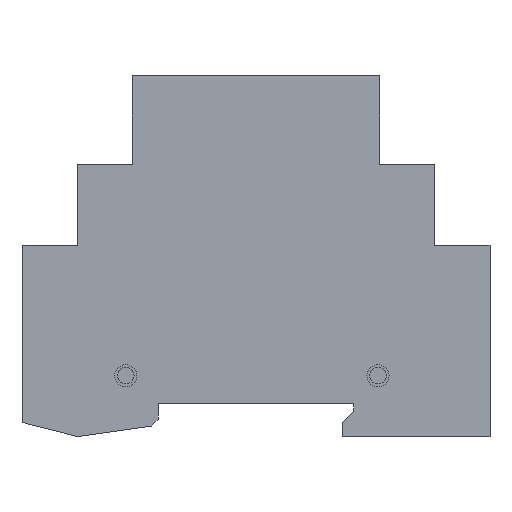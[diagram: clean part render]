
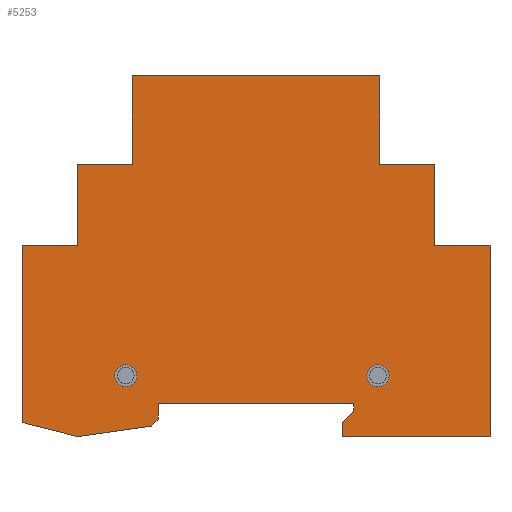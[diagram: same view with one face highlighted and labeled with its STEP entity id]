
A CAD part, left-side view. The second image highlights one B-rep face of the part: STEP entity #5253.
In plain terms, the highlighted planar face has unit normal (-1, 0, 0).
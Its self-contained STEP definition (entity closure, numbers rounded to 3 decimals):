
#267=LINE('',#7327,#758);
#270=LINE('',#7332,#761);
#272=LINE('',#7336,#763);
#274=LINE('',#7340,#765);
#276=LINE('',#7344,#767);
#278=LINE('',#7348,#769);
#280=LINE('',#7352,#771);
#282=LINE('',#7356,#773);
#284=LINE('',#7360,#775);
#286=LINE('',#7364,#777);
#288=LINE('',#7368,#779);
#290=LINE('',#7372,#781);
#292=LINE('',#7376,#783);
#294=LINE('',#7380,#785);
#296=LINE('',#7384,#787);
#298=LINE('',#7388,#789);
#300=LINE('',#7392,#791);
#302=LINE('',#7396,#793);
#304=LINE('',#7400,#795);
#306=LINE('',#7404,#797);
#308=LINE('',#7407,#799);
#758=VECTOR('',#6046,10.);
#761=VECTOR('',#6051,10.);
#763=VECTOR('',#6055,10.);
#765=VECTOR('',#6059,10.);
#767=VECTOR('',#6063,10.);
#769=VECTOR('',#6067,10.);
#771=VECTOR('',#6071,10.);
#773=VECTOR('',#6075,10.);
#775=VECTOR('',#6079,10.);
#777=VECTOR('',#6083,10.);
#779=VECTOR('',#6087,10.);
#781=VECTOR('',#6091,10.);
#783=VECTOR('',#6095,10.);
#785=VECTOR('',#6099,10.);
#787=VECTOR('',#6103,10.);
#789=VECTOR('',#6107,10.);
#791=VECTOR('',#6111,10.);
#793=VECTOR('',#6115,10.);
#795=VECTOR('',#6119,10.);
#797=VECTOR('',#6123,10.);
#799=VECTOR('',#6127,10.);
#1258=PLANE('',#5617);
#1474=FACE_BOUND('',#1924,.T.);
#1475=FACE_BOUND('',#1925,.T.);
#1582=FACE_OUTER_BOUND('',#1923,.T.);
#1923=EDGE_LOOP('',(#3812,#3813,#3814,#3815,#3816,#3817,#3818,#3819,#3820,
#3821,#3822,#3823,#3824,#3825,#3826,#3827,#3828,#3829,#3830,#3831,#3832));
#1924=EDGE_LOOP('',(#3833));
#1925=EDGE_LOOP('',(#3834));
#2295=CIRCLE('',#5590,2.);
#2297=CIRCLE('',#5594,2.);
#2436=VERTEX_POINT('',#7315);
#2438=VERTEX_POINT('',#7321);
#2439=VERTEX_POINT('',#7325);
#2440=VERTEX_POINT('',#7326);
#2441=VERTEX_POINT('',#7331);
#2442=VERTEX_POINT('',#7335);
#2443=VERTEX_POINT('',#7339);
#2444=VERTEX_POINT('',#7343);
#2445=VERTEX_POINT('',#7347);
#2446=VERTEX_POINT('',#7351);
#2447=VERTEX_POINT('',#7355);
#2448=VERTEX_POINT('',#7359);
#2449=VERTEX_POINT('',#7363);
#2450=VERTEX_POINT('',#7367);
#2451=VERTEX_POINT('',#7371);
#2452=VERTEX_POINT('',#7375);
#2453=VERTEX_POINT('',#7379);
#2454=VERTEX_POINT('',#7383);
#2455=VERTEX_POINT('',#7387);
#2456=VERTEX_POINT('',#7391);
#2457=VERTEX_POINT('',#7395);
#2458=VERTEX_POINT('',#7399);
#2459=VERTEX_POINT('',#7403);
#2962=EDGE_CURVE('',#2436,#2436,#2295,.T.);
#2964=EDGE_CURVE('',#2438,#2438,#2297,.T.);
#2965=EDGE_CURVE('',#2439,#2440,#267,.T.);
#2968=EDGE_CURVE('',#2441,#2439,#270,.T.);
#2970=EDGE_CURVE('',#2442,#2441,#272,.T.);
#2972=EDGE_CURVE('',#2443,#2442,#274,.T.);
#2974=EDGE_CURVE('',#2444,#2443,#276,.T.);
#2976=EDGE_CURVE('',#2445,#2444,#278,.T.);
#2978=EDGE_CURVE('',#2446,#2445,#280,.T.);
#2980=EDGE_CURVE('',#2447,#2446,#282,.T.);
#2982=EDGE_CURVE('',#2448,#2447,#284,.T.);
#2984=EDGE_CURVE('',#2449,#2448,#286,.T.);
#2986=EDGE_CURVE('',#2450,#2449,#288,.T.);
#2988=EDGE_CURVE('',#2451,#2450,#290,.T.);
#2990=EDGE_CURVE('',#2452,#2451,#292,.T.);
#2992=EDGE_CURVE('',#2453,#2452,#294,.T.);
#2994=EDGE_CURVE('',#2454,#2453,#296,.T.);
#2996=EDGE_CURVE('',#2455,#2454,#298,.T.);
#2998=EDGE_CURVE('',#2456,#2455,#300,.T.);
#3000=EDGE_CURVE('',#2457,#2456,#302,.T.);
#3002=EDGE_CURVE('',#2458,#2457,#304,.T.);
#3004=EDGE_CURVE('',#2459,#2458,#306,.T.);
#3006=EDGE_CURVE('',#2440,#2459,#308,.T.);
#3812=ORIENTED_EDGE('',*,*,#3006,.F.);
#3813=ORIENTED_EDGE('',*,*,#2965,.F.);
#3814=ORIENTED_EDGE('',*,*,#2968,.F.);
#3815=ORIENTED_EDGE('',*,*,#2970,.F.);
#3816=ORIENTED_EDGE('',*,*,#2972,.F.);
#3817=ORIENTED_EDGE('',*,*,#2974,.F.);
#3818=ORIENTED_EDGE('',*,*,#2976,.F.);
#3819=ORIENTED_EDGE('',*,*,#2978,.F.);
#3820=ORIENTED_EDGE('',*,*,#2980,.F.);
#3821=ORIENTED_EDGE('',*,*,#2982,.F.);
#3822=ORIENTED_EDGE('',*,*,#2984,.F.);
#3823=ORIENTED_EDGE('',*,*,#2986,.F.);
#3824=ORIENTED_EDGE('',*,*,#2988,.F.);
#3825=ORIENTED_EDGE('',*,*,#2990,.F.);
#3826=ORIENTED_EDGE('',*,*,#2992,.F.);
#3827=ORIENTED_EDGE('',*,*,#2994,.F.);
#3828=ORIENTED_EDGE('',*,*,#2996,.F.);
#3829=ORIENTED_EDGE('',*,*,#2998,.F.);
#3830=ORIENTED_EDGE('',*,*,#3000,.F.);
#3831=ORIENTED_EDGE('',*,*,#3002,.F.);
#3832=ORIENTED_EDGE('',*,*,#3004,.F.);
#3833=ORIENTED_EDGE('',*,*,#2962,.T.);
#3834=ORIENTED_EDGE('',*,*,#2964,.T.);
#5253=ADVANCED_FACE('',(#1582,#1474,#1475),#1258,.F.);
#5590=AXIS2_PLACEMENT_3D('',#7316,#6032,#6033);
#5594=AXIS2_PLACEMENT_3D('',#7322,#6040,#6041);
#5617=AXIS2_PLACEMENT_3D('',#7408,#6128,#6129);
#6032=DIRECTION('center_axis',(1.,0.,0.));
#6033=DIRECTION('ref_axis',(0.,0.,-1.));
#6040=DIRECTION('center_axis',(1.,0.,0.));
#6041=DIRECTION('ref_axis',(0.,0.,-1.));
#6046=DIRECTION('',(0.,0.969,0.248));
#6051=DIRECTION('',(0.,0.99,-0.141));
#6055=DIRECTION('',(0.,0.707,-0.707));
#6059=DIRECTION('',(0.,0.,-1.));
#6063=DIRECTION('',(0.,1.,0.));
#6067=DIRECTION('',(0.,0.,1.));
#6071=DIRECTION('',(0.,-1.,0.));
#6075=DIRECTION('',(0.,-0.707,0.707));
#6079=DIRECTION('',(0.,0.,1.));
#6083=DIRECTION('',(0.,1.,0.));
#6087=DIRECTION('',(0.,0.,-1.));
#6091=DIRECTION('',(0.,-1.,0.));
#6095=DIRECTION('',(0.,0.,-1.));
#6099=DIRECTION('',(0.,-1.,0.));
#6103=DIRECTION('',(0.,0.,-1.));
#6107=DIRECTION('',(0.,-1.,0.));
#6111=DIRECTION('',(0.,0.,1.));
#6115=DIRECTION('',(0.,-1.,0.));
#6119=DIRECTION('',(0.,0.,1.));
#6123=DIRECTION('',(0.,-1.,0.));
#6127=DIRECTION('',(0.,0.,1.));
#6128=DIRECTION('center_axis',(1.,0.,0.));
#6129=DIRECTION('ref_axis',(0.,0.,-1.));
#7315=CARTESIAN_POINT('',(0.,28.481,-16.033));
#7316=CARTESIAN_POINT('Origin',(0.,28.481,-18.033));
#7321=CARTESIAN_POINT('',(0.,-17.327,-16.033));
#7322=CARTESIAN_POINT('Origin',(0.,-17.327,-18.033));
#7325=CARTESIAN_POINT('',(0.,37.329,-29.095));
#7326=CARTESIAN_POINT('',(0.,47.329,-26.53));
#7327=CARTESIAN_POINT('',(0.,37.329,-29.095));
#7331=CARTESIAN_POINT('',(0.,23.84,-27.176));
#7332=CARTESIAN_POINT('',(0.,23.84,-27.176));
#7335=CARTESIAN_POINT('',(0.,22.579,-25.916));
#7336=CARTESIAN_POINT('',(0.,22.579,-25.916));
#7339=CARTESIAN_POINT('',(0.,22.579,-23.092));
#7340=CARTESIAN_POINT('',(0.,22.579,-23.092));
#7343=CARTESIAN_POINT('',(0.,-12.921,-23.092));
#7344=CARTESIAN_POINT('',(0.,-12.921,-23.092));
#7347=CARTESIAN_POINT('',(0.,-12.921,-24.527));
#7348=CARTESIAN_POINT('',(0.,-12.921,-24.527));
#7351=CARTESIAN_POINT('',(0.,-12.823,-24.527));
#7352=CARTESIAN_POINT('',(0.,-12.823,-24.527));
#7355=CARTESIAN_POINT('',(0.,-10.823,-26.527));
#7356=CARTESIAN_POINT('',(0.,-10.823,-26.527));
#7359=CARTESIAN_POINT('',(0.,-10.823,-29.095));
#7360=CARTESIAN_POINT('',(0.,-10.823,-29.095));
#7363=CARTESIAN_POINT('',(0.,-37.671,-29.095));
#7364=CARTESIAN_POINT('',(0.,-37.671,-29.095));
#7367=CARTESIAN_POINT('',(0.,-37.671,5.658));
#7368=CARTESIAN_POINT('',(0.,-37.671,5.658));
#7371=CARTESIAN_POINT('',(0.,-27.671,5.658));
#7372=CARTESIAN_POINT('',(0.,-27.671,5.658));
#7375=CARTESIAN_POINT('',(0.,-27.671,20.405));
#7376=CARTESIAN_POINT('',(0.,-27.671,20.405));
#7379=CARTESIAN_POINT('',(0.,-17.671,20.405));
#7380=CARTESIAN_POINT('',(0.,-17.671,20.405));
#7383=CARTESIAN_POINT('',(0.,-17.671,36.405));
#7384=CARTESIAN_POINT('',(0.,-17.671,36.405));
#7387=CARTESIAN_POINT('',(0.,27.329,36.405));
#7388=CARTESIAN_POINT('',(0.,27.329,36.405));
#7391=CARTESIAN_POINT('',(0.,27.329,20.405));
#7392=CARTESIAN_POINT('',(0.,27.329,20.405));
#7395=CARTESIAN_POINT('',(0.,37.329,20.405));
#7396=CARTESIAN_POINT('',(0.,37.329,20.405));
#7399=CARTESIAN_POINT('',(0.,37.329,5.658));
#7400=CARTESIAN_POINT('',(0.,37.329,5.658));
#7403=CARTESIAN_POINT('',(0.,47.329,5.658));
#7404=CARTESIAN_POINT('',(0.,47.329,5.658));
#7407=CARTESIAN_POINT('',(0.,47.329,-26.53));
#7408=CARTESIAN_POINT('Origin',(0.,4.241,0.455));
